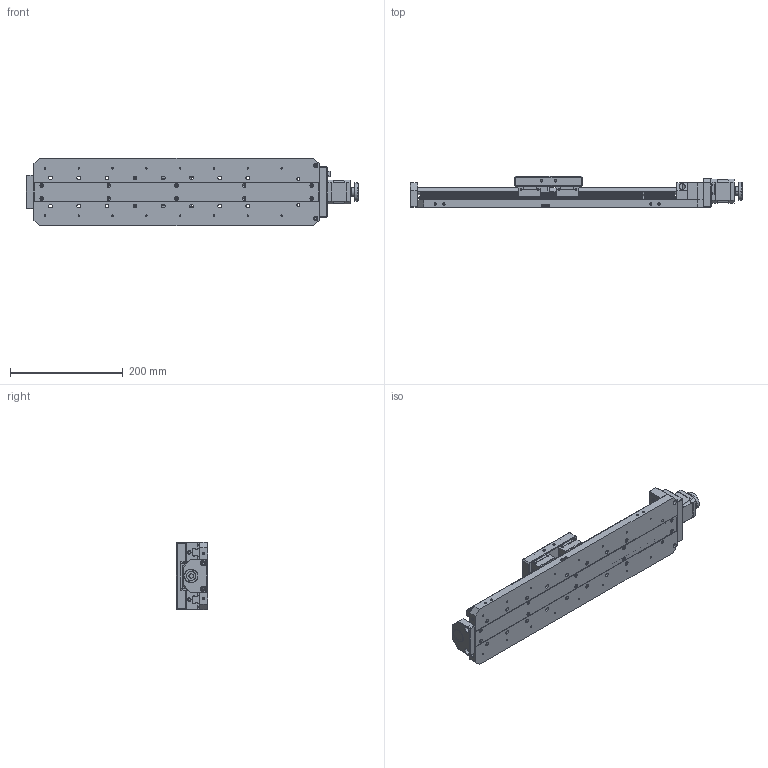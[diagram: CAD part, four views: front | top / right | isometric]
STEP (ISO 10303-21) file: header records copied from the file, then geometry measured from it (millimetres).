
FILE_DESCRIPTION (( 'STEP AP214' ), '1' );
FILE_NAME ('PT-GD140G(300).STEP', '2022-09-18T03:48:19', ( '' ), ( '' ), 'SwSTEP 2.0', 'SolidWorks 2017', '' );
FILE_SCHEMA (( 'AUTOMOTIVE_DESIGN' ));
Length unit declared in the file: millimetre
Products named in the file (1): PT-GD140G(300)
Bounding box: 589 x 55 x 120 mm (x, y, z)
Volume: 1437737.4 mm3; surface area: 438091.2 mm2
Topology: 32 solids, 32 shells, 2728 faces, 7656 edges, 4948 vertices
Faces by surface type: plane 1110, cylinder 1053, bspline 333, cone 215, torus 17
Entity records: 119960 total; most frequent: CARTESIAN_POINT 36110, ORIENTED_EDGE 14818, DIRECTION 12906, EDGE_CURVE 7409, VERTEX_POINT 4944, AXIS2_PLACEMENT_3D 4657, LINE 3592, VECTOR 3592
